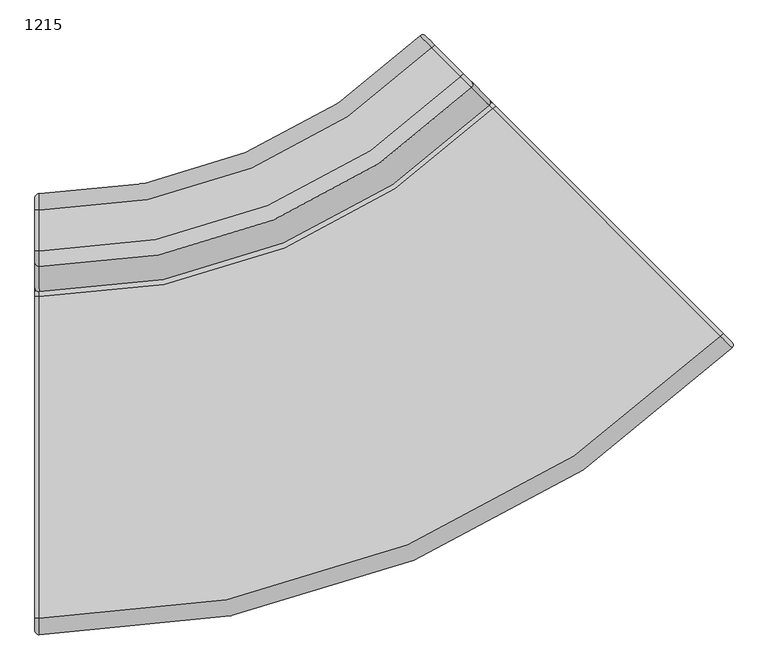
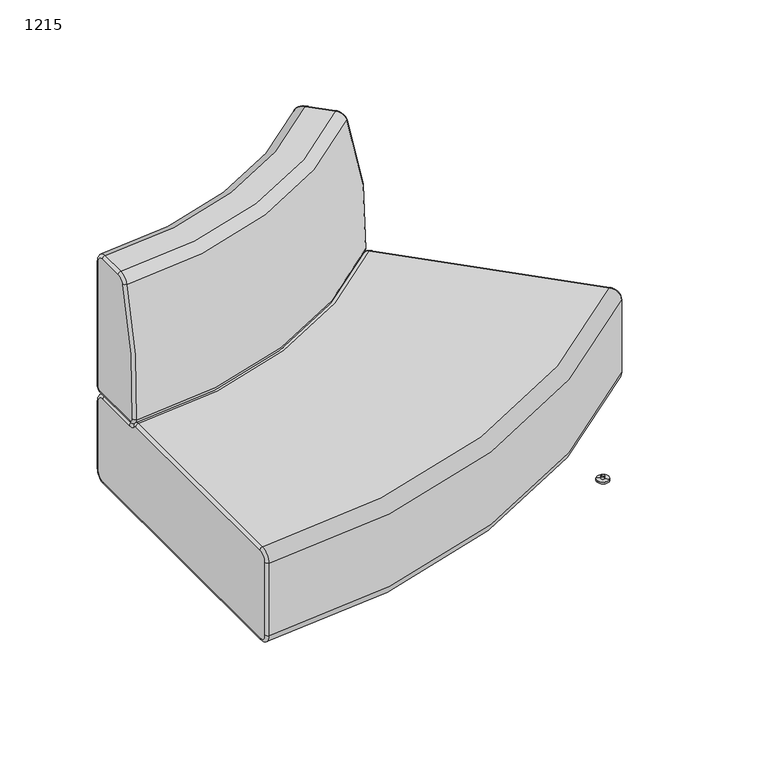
"""IFC4 building model written with IfcOpenShell, lengths in millimetres: furniture geometry, Laguna-Modular-Outside_Curve-ERG : 1215."""

from ifc_helpers import new_model, si_unit, point, frame, frame_2d, origin, place, context, project, spatial, polyline, circle_curve, ellipse_curve, trimmed, segment, composite_curve, outline, extrude, source, transform, mapped, element, save
from ifc_brep_helpers import plane_surface, cylinder_surface, revolved_surface, advanced_brep


def furniture_1215_0016b4f5(model_context):
    return source(origin(), model_context, "Body", "SolidModel", [
        extrude(outline(composite_curve([segment(trimmed(circle_curve(frame_2d((-4101.2959415, 1192.0526601)), 5.08), [point((-4104.8818015, 1195.6509941))], [point((-4097.6976074, 1195.6385201))], False, "CARTESIAN"), True, "CONTINUOUS"), segment(polyline([(-4097.6976074, 1195.6385201), (-4069.0107273, 1166.8518477)]), True, "CONTINUOUS"), segment(trimmed(circle_curve(frame_2d((-4072.6090614, 1163.2659876)), 5.08), [point((-4069.0107273, 1166.8518477))], [point((-4069.0232014, 1159.6676536))], False, "CARTESIAN"), True, "CONTINUOUS"), segment(polyline([(-4069.0232014, 1159.6676536), (-4112.20321, 1116.6373334)]), True, "CONTINUOUS"), segment(trimmed(circle_curve(frame_2d((-4115.78907, 1120.2356675)), 5.08), [point((-4112.20321, 1116.6373334))], [point((-4119.3874041, 1116.6498075))], False, "CARTESIAN"), True, "CONTINUOUS"), segment(polyline([(-4119.3874041, 1116.6498075), (-4148.0742842, 1145.4364799)]), True, "CONTINUOUS"), segment(trimmed(circle_curve(frame_2d((-4144.4759501, 1149.0223399)), 5.08), [point((-4148.0742842, 1145.4364799))], [point((-4148.0618101, 1152.620674))], False, "CARTESIAN"), True, "CONTINUOUS"), segment(polyline([(-4148.0618101, 1152.620674), (-4104.8818015, 1195.6509941)]), True, "CONTINUOUS")], self_intersect=False)), frame((0.0, 0.0, 200.66), z_axis=(0.0, 0.0, 1.0), x_axis=(1.0, 0.0, 0.0)), (0.0, 0.0, 1.0), 2.54),
        extrude(outline(composite_curve([segment(trimmed(circle_curve(frame_2d((-3708.0974018, 797.4863106)), 5.08), [point((-3711.6832618, 801.0846446))], [point((-3704.4990677, 801.0721706))], False, "CARTESIAN"), True, "CONTINUOUS"), segment(polyline([(-3704.4990677, 801.0721706), (-3675.8121876, 772.2854982)]), True, "CONTINUOUS"), segment(trimmed(circle_curve(frame_2d((-3679.4105217, 768.6996382)), 5.08), [point((-3675.8121876, 772.2854982))], [point((-3675.8246617, 765.1013041))], False, "CARTESIAN"), True, "CONTINUOUS"), segment(polyline([(-3675.8246617, 765.1013041), (-3719.0046703, 722.0709839)]), True, "CONTINUOUS"), segment(trimmed(circle_curve(frame_2d((-3722.5905303, 725.669318)), 5.08), [point((-3719.0046703, 722.0709839))], [point((-3726.1888644, 722.083458))], False, "CARTESIAN"), True, "CONTINUOUS"), segment(polyline([(-3726.1888644, 722.083458), (-3754.8757445, 750.8701304)]), True, "CONTINUOUS"), segment(trimmed(circle_curve(frame_2d((-3751.2774104, 754.4559904)), 5.08), [point((-3754.8757445, 750.8701304))], [point((-3754.8632704, 758.0543245))], False, "CARTESIAN"), True, "CONTINUOUS"), segment(polyline([(-3754.8632704, 758.0543245), (-3711.6832618, 801.0846446)]), True, "CONTINUOUS")], self_intersect=False)), frame((0.0, 0.0, 200.66), z_axis=(0.0, 0.0, 1.0), x_axis=(1.0, 0.0, 0.0)), (0.0, 0.0, 1.0), 2.54),
        advanced_brep(
        [(-4700.4237656, 845.1834654, 435.9339217), (-4003.3328855, 1133.9881051, 435.9339217), (-4030.8034326, 1161.4505616, 744.3916508), (-4700.4237656, 884.0269651, 744.3916508), (-4700.4237656, 863.0813354, 419.1), (-4015.9904546, 1146.6419463, 419.1), (-4700.4237656, 984.17383, 419.1), (-4101.6284004, 1232.2546704, 419.1), (-4700.4237656, 996.8738467, 431.8), (-4110.6099791, 1241.2336038, 431.8), (-4700.4237656, 996.8738467, 736.5999844), (-4110.6099791, 1241.2336038, 736.6), (-4700.4237656, 971.4738467, 762.0), (-4092.6468218, 1223.275737, 762.0), (-4700.4237656, 908.202381, 762.0), (-4047.9005425, 1178.5426361, 762.0), (-4706.7737656, 990.5238467, 431.8), (-4706.7737656, 984.1738467, 425.45), (-4706.7737656, 863.0813354, 425.45), (-4706.7737656, 851.5215589, 436.3225994), (-4706.7737656, 890.0708162, 742.4437381), (-4706.7737656, 908.2023695, 755.65), (-4706.7737656, 971.4738467, 755.65), (-4706.7737656, 990.5238467, 736.6), (-4101.6297231, 1241.2349264, 736.6), (-4088.1573551, 1227.7665263, 755.65), (-4043.4110757, 1183.0334255, 755.65), (-4030.5882433, 1170.2143696, 742.4437381), (-4003.3257878, 1142.9599433, 436.3225994), (-4011.5009879, 1151.1327356, 425.45), (-4097.1389337, 1236.7454597, 425.45), (-4101.6297231, 1241.2349264, 431.8)],
        [
            (0, 1, circle_curve(frame((-4700.4237656, 1830.8736805, 435.9339217), z_axis=(0.0, 0.0, 1.0), x_axis=(0.7072109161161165, -0.7070026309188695, 0.0)), 985.6902151)),
            (1, 2, circle_curve(frame((-4595.0588877, 1725.5398343, 487.2440105), z_axis=(-0.7070026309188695, -0.7072109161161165, 0.0), x_axis=(0.7072109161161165, -0.7070026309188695, 0.0)), 838.2755126)),
            (2, 3, circle_curve(frame((-4700.4237656, 1830.8736805, 744.3916508), z_axis=(0.0, 0.0, -1.0), x_axis=(0.7072109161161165, -0.7070026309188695, 0.0)), 946.8467154)),
            (3, 0, circle_curve(frame((-4700.4237656, 1681.8871823, 487.2440105), z_axis=(1.0, 0.0, 0.0), x_axis=(0.0, -1.0, 0.0)), 838.2755126)),
            (0, 4, circle_curve(frame((-4700.4237656, 863.0813354, 437.0314921), z_axis=(1.0, 0.0, 0.0), x_axis=(0.0, -1.0, 0.0)), 17.9314921)),
            (4, 5, circle_curve(frame((-4700.4237656, 1830.8736805, 419.1), z_axis=(0.0, 0.0, 1.0), x_axis=(0.7072109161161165, -0.7070026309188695, 0.0)), 967.7923451)),
            (5, 1, circle_curve(frame((-4015.9904546, 1146.6419463, 437.0314921), z_axis=(-0.7070026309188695, -0.7072109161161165, 0.0), x_axis=(0.7072109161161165, -0.7070026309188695, 0.0)), 17.9314921)),
            (4, 6),
            (6, 7, circle_curve(frame((-4700.4237656, 1830.8736805, 419.1), z_axis=(0.0, 0.0, 1.0), x_axis=(0.7072109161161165, -0.7070026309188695, 0.0)), 846.6998338)),
            (7, 5),
            (6, 8, circle_curve(frame((-4700.4237656, 984.1738467, 431.8), z_axis=(1.0, 0.0, 0.0), x_axis=(0.0, -1.0, 0.0)), 12.7)),
            (8, 9, circle_curve(frame((-4700.4237656, 1830.8736805, 431.8), z_axis=(0.0, 0.0, 1.0), x_axis=(0.7072109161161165, -0.7070026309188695, 0.0)), 833.9998338)),
            (9, 7, circle_curve(frame((-4101.6284004, 1232.2546704, 431.8), z_axis=(-0.7070026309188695, -0.7072109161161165, 0.0), x_axis=(0.7072109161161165, -0.7070026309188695, 0.0)), 12.7)),
            (8, 10),
            (10, 11, circle_curve(frame((-4700.4237656, 1830.8736805, 736.6), z_axis=(0.0, 0.0, 1.0), x_axis=(0.7072109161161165, -0.7070026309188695, 0.0)), 833.9998338)),
            (11, 9),
            (10, 12, circle_curve(frame((-4700.4237656, 971.4738467, 736.6), z_axis=(1.0, 0.0, 0.0), x_axis=(0.0, -1.0, 0.0)), 25.4)),
            (12, 13, circle_curve(frame((-4700.4237656, 1830.8736805, 762.0), z_axis=(0.0, 0.0, 1.0), x_axis=(0.7072109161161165, -0.7070026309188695, 0.0)), 859.3998338)),
            (13, 11, circle_curve(frame((-4092.6468218, 1223.275737, 736.6), z_axis=(-0.7070026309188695, -0.7072109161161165, 0.0), x_axis=(0.7072109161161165, -0.7070026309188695, 0.0)), 25.4)),
            (12, 14),
            (14, 15, circle_curve(frame((-4700.4237656, 1830.8736805, 762.0), z_axis=(0.0, 0.0, 1.0), x_axis=(0.7072109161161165, -0.7070026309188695, 0.0)), 922.671311)),
            (15, 13),
            (2, 15, circle_curve(frame((-4047.9005425, 1178.5426361, 736.6), z_axis=(-0.7070026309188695, -0.7072109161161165, 0.0), x_axis=(0.7072109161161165, -0.7070026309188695, 0.0)), 25.4)),
            (14, 3, circle_curve(frame((-4700.4237656, 908.2023695, 736.6), z_axis=(1.0, 0.0, 0.0), x_axis=(0.0, -1.0, 0.0)), 25.4)),
            (16, 8, circle_curve(frame((-4700.4237656, 990.5238467, 431.8), z_axis=(0.0, 0.0, -1.0), x_axis=(-1.0, 0.0, 0.0)), 6.35)),
            (6, 17, circle_curve(frame((-4700.4237656, 984.1738467, 425.45), z_axis=(0.0, 1.0, 0.0), x_axis=(-1.0, 0.0, 0.0)), 6.35)),
            (17, 16, circle_curve(frame((-4706.7737656, 984.1738467, 431.8), z_axis=(1.0, 0.0, 0.0), x_axis=(0.0, 1.0, 0.0)), 6.35)),
            (4, 18, circle_curve(frame((-4700.4237656, 863.0813354, 425.45), z_axis=(0.0, 1.0, 0.0), x_axis=(-1.0, 0.0, 0.0)), 6.35)),
            (18, 17),
            (0, 19, circle_curve(frame((-4700.4237656, 851.5215589, 436.3225994), z_axis=(0.0, 0.061209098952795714, -0.9981249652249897), x_axis=(-1.0, 0.0, 0.0)), 6.35)),
            (19, 18, circle_curve(frame((-4706.7737656, 863.0813354, 437.0314921), z_axis=(1.0, 0.0, 0.0), x_axis=(0.0, 0.0, -1.0)), 11.5814921)),
            (3, 20, circle_curve(frame((-4700.4237656, 890.0708162, 742.4437381), z_axis=(0.0, -0.30675790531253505, -0.95178757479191), x_axis=(-1.0, 0.0, 0.0)), 6.35)),
            (20, 19, circle_curve(frame((-4706.7737656, 1681.8871823, 487.2440105), z_axis=(1.0, 0.0, 0.0), x_axis=(0.0, -0.9981249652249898, -0.061209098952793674)), 831.9255126)),
            (14, 21, circle_curve(frame((-4700.4237656, 908.2023695, 755.65), z_axis=(0.0, -1.0, 0.0), x_axis=(-1.0, 0.0, 0.0)), 6.35)),
            (21, 20, circle_curve(frame((-4706.7737656, 908.2023695, 736.6), z_axis=(1.0, 0.0, 0.0), x_axis=(0.0, -0.9517875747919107, 0.3067579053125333)), 19.05)),
            (12, 22, circle_curve(frame((-4700.4237656, 971.4738467, 755.65), z_axis=(0.0, -1.0, 0.0), x_axis=(-1.0, 0.0, 0.0)), 6.35)),
            (22, 21),
            (10, 23, circle_curve(frame((-4700.4237656, 990.5238467, 736.6), z_axis=(0.0, 0.0, 1.0), x_axis=(-1.0, 0.0, 0.0)), 6.35)),
            (23, 22, circle_curve(frame((-4706.7737656, 971.4738467, 736.6), z_axis=(1.0, 0.0, 0.0), x_axis=(0.0, 0.0, 1.0)), 19.05)),
            (16, 23),
            (24, 11, circle_curve(frame((-4106.1191898, 1236.7441371, 736.6), z_axis=(0.0, 0.0, 1.0), x_axis=(0.7072109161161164, -0.7070026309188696, 0.0)), 6.35)),
            (13, 25, circle_curve(frame((-4092.6468218, 1223.275737, 755.65), z_axis=(-0.7072109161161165, 0.7070026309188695, 0.0), x_axis=(0.0, 0.0, -1.0)), 6.35)),
            (25, 24, circle_curve(frame((-4088.1573551, 1227.7665263, 736.6), z_axis=(-0.7070026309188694, -0.7072109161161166, 0.0), x_axis=(-0.7072109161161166, 0.7070026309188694, 0.0)), 19.05)),
            (15, 26, circle_curve(frame((-4047.9005425, 1178.5426361, 755.65), z_axis=(-0.7072109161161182, 0.707002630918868, 0.0), x_axis=(0.0, 0.0, -1.0)), 6.35)),
            (26, 25),
            (2, 27, circle_curve(frame((-4035.07771, 1165.7235803, 742.4437381), z_axis=(-0.2169425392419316, 0.21687864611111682, 0.9517875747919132), x_axis=(-0.6731145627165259, 0.6729163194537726, -0.30675790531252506)), 6.35)),
            (27, 26, circle_curve(frame((-4043.4110757, 1183.0334255, 736.6), z_axis=(-0.7070026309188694, -0.7072109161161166, 0.0), x_axis=(0.0, 0.0, 1.0)), 19.05)),
            (1, 28, circle_curve(frame((-4007.8152545, 1138.4691539, 436.3225994), z_axis=(0.043287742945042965, -0.04327499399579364, 0.9981249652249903), x_axis=(-0.7058848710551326, 0.7056769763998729, 0.0612090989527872)), 6.35)),
            (28, 27, circle_curve(frame((-4590.569421, 1730.0306236, 487.2440105), z_axis=(-0.7070026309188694, -0.7072109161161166, 0.0), x_axis=(0.6731145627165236, -0.6729163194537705, 0.30675790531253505)), 831.9255126)),
            (5, 29, circle_curve(frame((-4015.9904546, 1146.6419463, 425.45), z_axis=(0.7072109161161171, -0.707002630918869, 0.0), x_axis=(0.0, 0.0, 1.0)), 6.35)),
            (29, 28, circle_curve(frame((-4011.5009879, 1151.1327356, 437.0314921), z_axis=(-0.7070026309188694, -0.7072109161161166, 0.0), x_axis=(0.7058848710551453, -0.705676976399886, -0.06120909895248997)), 11.5814921)),
            (7, 30, circle_curve(frame((-4101.6284004, 1232.2546704, 425.45), z_axis=(0.7072109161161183, -0.7070026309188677, 0.0), x_axis=(0.0, 0.0, 1.0)), 6.35)),
            (30, 29),
            (9, 31, circle_curve(frame((-4106.1191898, 1236.7441371, 431.8), z_axis=(0.0, 0.0, -1.0), x_axis=(0.7072109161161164, -0.7070026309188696, 0.0)), 6.35)),
            (31, 30, circle_curve(frame((-4097.1389337, 1236.7454597, 431.8), z_axis=(-0.7070026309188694, -0.7072109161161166, 0.0), x_axis=(0.0, 0.0, -1.0)), 6.35)),
            (24, 31),
        ],
        [
            revolved_surface(trimmed(ellipse_curve(frame((-4595.0588877, 1725.5398343, 487.2440105), z_axis=(0.7070026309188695, 0.7072109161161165, 0.0), x_axis=(0.7072109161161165, -0.7070026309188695, 0.0)), 838.2755126, 838.2755126), [point((-4030.8034326, 1161.4505616, 744.3916508))], [point((-4003.3328855, 1133.9881051, 435.9339217))], True, "CARTESIAN"), (-4700.4237656, 1830.8736805, 0.0), (0.0, 0.0, -1.0)),
            revolved_surface(trimmed(ellipse_curve(frame((-4015.9904546, 1146.6419463, 437.0314921), z_axis=(0.7070026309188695, 0.7072109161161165, 0.0), x_axis=(0.7072109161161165, -0.7070026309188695, 0.0)), 17.9314921, 17.9314921), [point((-4003.3328855, 1133.9881051, 435.9339217))], [point((-4015.9904546, 1146.6419463, 419.1))], True, "CARTESIAN"), (-4700.4237656, 1830.8736805, 0.0), (0.0, 0.0, -1.0)),
            plane_surface(frame((-4700.4237656, 1830.8736805, 419.1), z_axis=(0.0, 0.0, -1.0), x_axis=(0.7072109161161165, -0.7070026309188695, 0.0))),
            revolved_surface(trimmed(ellipse_curve(frame((-4101.6284004, 1232.2546704, 431.8), z_axis=(0.7070026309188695, 0.7072109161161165, 0.0), x_axis=(0.7072109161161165, -0.7070026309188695, 0.0)), 12.7, 12.7), [point((-4101.6284004, 1232.2546704, 419.1))], [point((-4110.6099791, 1241.2336038, 431.8))], True, "CARTESIAN"), (-4700.4237656, 1830.8736805, 0.0), (0.0, 0.0, -1.0)),
            revolved_surface(polyline([(-4110.609979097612, 1241.2336038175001, 431.8), (-4110.609979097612, 1241.2336038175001, 736.6)]), (-4700.4237656, 1830.8736805, 0.0), (0.0, 0.0, -1.0)),
            revolved_surface(trimmed(ellipse_curve(frame((-4092.6468218, 1223.275737, 736.6), z_axis=(0.7070026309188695, 0.7072109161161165, 0.0), x_axis=(0.7072109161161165, -0.7070026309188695, 0.0)), 25.4, 25.4), [point((-4110.6099791, 1241.2336038, 736.6))], [point((-4092.6468218, 1223.275737, 762.0))], True, "CARTESIAN"), (-4700.4237656, 1830.8736805, 0.0), (0.0, 0.0, -1.0)),
            plane_surface(frame((-4700.4237656, 1830.8736805, 762.0), z_axis=(0.0, 0.0, 1.0), x_axis=(0.7072109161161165, -0.7070026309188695, 0.0))),
            revolved_surface(trimmed(ellipse_curve(frame((-4047.9005425, 1178.5426361, 736.6), z_axis=(0.7070026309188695, 0.7072109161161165, 0.0), x_axis=(0.7072109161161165, -0.7070026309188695, 0.0)), 25.4, 25.4), [point((-4047.9005425, 1178.5426361, 762.0))], [point((-4030.8034326, 1161.4505616, 744.3916508))], True, "CARTESIAN"), (-4700.4237656, 1830.8736805, 0.0), (0.0, 0.0, -1.0)),
            revolved_surface(trimmed(ellipse_curve(frame((-4700.4237656, 990.5238467, 431.8), z_axis=(0.0, 0.0, 1.0), x_axis=(-1.0, 0.0, 0.0)), 6.35, 6.35), [point((-4700.4237656, 996.8738467, 431.8))], [point((-4706.7737656, 990.5238467, 431.8))], True, "CARTESIAN"), (-4700.4237656, 984.1738467, 431.8), (-1.0, 0.0, 0.0)),
            cylinder_surface(frame((-4700.4237656, 984.1738467, 425.45), z_axis=(0.0, 1.0, 0.0), x_axis=(-1.0, 0.0, 0.0)), 6.35),
            revolved_surface(trimmed(ellipse_curve(frame((-4700.4237656, 863.0813354, 425.45), z_axis=(0.0, 1.0, 0.0), x_axis=(-1.0, 0.0, 0.0)), 6.35, 6.35), [point((-4700.4237656, 863.0813354, 419.1))], [point((-4706.7737656, 863.0813354, 425.45))], True, "CARTESIAN"), (-4700.4237656, 863.0813354, 437.0314921), (-1.0, 0.0, 0.0)),
            revolved_surface(trimmed(ellipse_curve(frame((-4700.4237656, 851.5215589, 436.3225994), z_axis=(0.0, 0.0612090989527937, -0.9981249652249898), x_axis=(-1.0, 0.0, 0.0)), 6.35, 6.35), [point((-4700.4237656, 845.1834654, 435.9339217))], [point((-4706.7737656, 851.5215589, 436.3225994))], True, "CARTESIAN"), (-4700.4237656, 1681.8871823, 487.2440105), (-1.0, 0.0, 0.0)),
            revolved_surface(trimmed(ellipse_curve(frame((-4700.4237656, 890.0708162, 742.4437381), z_axis=(0.0, -0.3067579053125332, -0.9517875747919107), x_axis=(-1.0, 0.0, 0.0)), 6.35, 6.35), [point((-4700.4237656, 884.0269651, 744.3916508))], [point((-4706.7737656, 890.0708162, 742.4437381))], True, "CARTESIAN"), (-4700.4237656, 908.2023695, 736.6), (-1.0, 0.0, 0.0)),
            cylinder_surface(frame((-4700.4237656, 908.2023695, 755.65), z_axis=(0.0, -1.0, 0.0), x_axis=(-1.0, 0.0, 0.0)), 6.35),
            revolved_surface(trimmed(ellipse_curve(frame((-4700.4237656, 971.4738467, 755.65), z_axis=(0.0, -1.0, 0.0), x_axis=(-1.0, 0.0, 0.0)), 6.35, 6.35), [point((-4700.4237656, 971.4738467, 762.0))], [point((-4706.7737656, 971.4738467, 755.65))], True, "CARTESIAN"), (-4700.4237656, 971.4738467, 736.6), (-1.0, 0.0, 0.0)),
            cylinder_surface(frame((-4700.4237656, 990.5238467, 736.6), z_axis=(0.0, 0.0, 1.0), x_axis=(-1.0, 0.0, 0.0)), 6.35),
            plane_surface(frame((-4706.7737656, 990.5238467, 431.8), z_axis=(-1.0, 0.0, 0.0), x_axis=(0.0, 0.0, -1.0))),
            revolved_surface(trimmed(ellipse_curve(frame((-4106.1191898, 1236.7441371, 736.6), z_axis=(0.0, 0.0, -1.0), x_axis=(0.7072109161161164, -0.7070026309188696, 0.0)), 6.35, 6.35), [point((-4110.6099791, 1241.2336038, 736.6))], [point((-4101.6297231, 1241.2349264, 736.6))], True, "CARTESIAN"), (-4092.6468218, 1223.275737, 736.6), (0.7070026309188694, 0.7072109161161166, 0.0)),
            cylinder_surface(frame((-4092.6468218, 1223.275737, 755.65), z_axis=(-0.7072109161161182, 0.707002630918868, 0.0), x_axis=(0.0, 0.0, -1.0)), 6.35),
            revolved_surface(trimmed(ellipse_curve(frame((-4047.9005425, 1178.5426361, 755.65), z_axis=(-0.7072109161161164, 0.7070026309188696, 0.0), x_axis=(0.0, 0.0, -1.0)), 6.35, 6.35), [point((-4047.9005425, 1178.5426361, 762.0))], [point((-4043.4110757, 1183.0334255, 755.65))], True, "CARTESIAN"), (-4047.9005425, 1178.5426361, 736.6), (0.7070026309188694, 0.7072109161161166, 0.0)),
            revolved_surface(trimmed(ellipse_curve(frame((-4035.07771, 1165.7235803, 742.4437381), z_axis=(-0.21694253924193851, 0.2168786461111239, 0.95178757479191), x_axis=(-0.6731145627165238, 0.6729163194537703, -0.30675790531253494)), 6.35, 6.35), [point((-4030.8034326, 1161.4505616, 744.3916508))], [point((-4030.5882433, 1170.2143696, 742.4437381))], True, "CARTESIAN"), (-4595.0588877, 1725.5398343, 487.2440105), (0.7070026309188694, 0.7072109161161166, 0.0)),
            revolved_surface(trimmed(ellipse_curve(frame((-4007.8152545, 1138.4691539, 436.3225994), z_axis=(0.0432877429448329, -0.04327499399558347, 0.9981249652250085), x_axis=(-0.7058848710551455, 0.7056769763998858, 0.061209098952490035)), 6.35, 6.35), [point((-4003.3328855, 1133.9881051, 435.9339217))], [point((-4003.3257878, 1142.9599433, 436.3225994))], True, "CARTESIAN"), (-4015.9904546, 1146.6419463, 437.0314921), (0.7070026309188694, 0.7072109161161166, 0.0)),
            cylinder_surface(frame((-4015.9904546, 1146.6419463, 425.45), z_axis=(0.7072109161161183, -0.7070026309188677, 0.0), x_axis=(0.0, 0.0, 1.0)), 6.35),
            revolved_surface(trimmed(ellipse_curve(frame((-4101.6284004, 1232.2546704, 425.45), z_axis=(0.707210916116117, -0.7070026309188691, 0.0), x_axis=(0.0, 0.0, 1.0)), 6.35, 6.35), [point((-4101.6284004, 1232.2546704, 419.1))], [point((-4097.1389337, 1236.7454597, 425.45))], True, "CARTESIAN"), (-4101.6284004, 1232.2546704, 431.8), (0.7070026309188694, 0.7072109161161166, 0.0)),
            cylinder_surface(frame((-4106.1191898, 1236.7441371, 431.8), z_axis=(0.0, 0.0, -1.0), x_axis=(0.7072109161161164, -0.7070026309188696, 0.0)), 6.35),
            plane_surface(frame((-5178.9162249, 2318.2041497, 487.2440105), z_axis=(0.7070026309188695, 0.7072109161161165, 0.0), x_axis=(0.0, 0.0, 1.0))),
        ],
        [
            (0, [[1, 2, 3, 4]]),
            (1, [[-1, 5, 6, 7]]),
            (2, [[-6, 8, 9, 10]]),
            (3, [[-9, 11, 12, 13]]),
            (4, [[-12, 14, 15, 16]]),
            (5, [[-15, 17, 18, 19]]),
            (6, [[-18, 20, 21, 22]]),
            (7, [[-3, 23, -21, 24]]),
            (8, [[25, -11, 26, 27]]),
            (9, [[-26, -8, 28, 29]]),
            (10, [[-28, -5, 30, 31]]),
            (11, [[-30, -4, 32, 33]]),
            (12, [[-32, -24, 34, 35]]),
            (13, [[-34, -20, 36, 37]]),
            (14, [[-36, -17, 38, 39]]),
            (15, [[-25, 40, -38, -14]]),
            (16, [[-27, -29, -31, -33, -35, -37, -39, -40]]),
            (17, [[41, -19, 42, 43]]),
            (18, [[-42, -22, 44, 45]]),
            (19, [[-44, -23, 46, 47]]),
            (20, [[-46, -2, 48, 49]]),
            (21, [[-48, -7, 50, 51]]),
            (22, [[-50, -10, 52, 53]]),
            (23, [[-52, -13, 54, 55]]),
            (24, [[-41, 56, -54, -16]]),
            (25, [[-43, -45, -47, -49, -51, -53, -55, -56]]),
        ],
    ),
        advanced_brep(
        [(-4092.613484, 1223.2371087, 203.2), (-4700.4237656, 971.4738467, 203.2), (-4700.4237656, 996.8738467, 228.6), (-4110.5739962, 1241.1976209, 228.6), (-3645.3421163, 775.9657411, 203.2), (-4700.4237656, 338.9365976, 203.2), (-3627.3815935, 758.0052182, 228.6), (-4700.4237656, 313.5365976, 228.6), (-3627.3815935, 758.0052182, 406.3999815), (-4700.4237656, 313.5365976, 406.4), (-3645.3421057, 775.9657305, 431.8), (-4700.4237656, 338.9365976, 431.8), (-3997.8150098, 1128.4386345, 431.8), (-4700.4237656, 837.408566, 431.8), (-4005.8899894, 1136.5136141, 426.1507973), (-4700.4237656, 848.8283045, 426.1507973), (-4015.9684042, 1146.5920289, 419.1), (-4700.4237656, 863.0813354, 419.1), (-4092.6134727, 1223.2370975, 419.1), (-4700.4237656, 971.4738467, 419.1), (-4110.5739962, 1241.1976209, 393.7), (-4700.4237656, 996.8738467, 393.7), (-4706.7737656, 971.4738467, 412.75), (-4706.7737656, 990.5238467, 393.7), (-4706.7737656, 990.5238467, 228.6), (-4706.7737656, 971.4738467, 209.55), (-4706.7737656, 338.9365976, 209.55), (-4706.7737656, 319.8865976, 228.6), (-4706.7737656, 319.8865976, 406.4), (-4706.7737656, 338.9365976, 425.45), (-4706.7737656, 837.408566, 425.45), (-4706.7737656, 843.7809417, 422.2976649), (-4706.7737656, 863.0813354, 412.75), (-4088.1233559, 1227.7272368, 209.55), (-4101.5937401, 1241.1976209, 228.6), (-4101.5937401, 1241.1976209, 393.7), (-4088.1233559, 1227.7272368, 412.75), (-4011.4782761, 1151.082157, 412.75), (-3997.8308368, 1137.4347177, 422.2976649), (-3993.3248868, 1132.9287676, 425.45), (-3640.8519777, 780.4558585, 425.45), (-3627.3815935, 766.9854744, 406.4), (-3627.3815935, 766.9854744, 228.6), (-3640.8519777, 780.4558585, 209.55)],
        [
            (0, 1, circle_curve(frame((-4700.4237656, 1831.0473903, 203.2), z_axis=(0.0, 0.0, -1.0), x_axis=(0.0, -1.0, 0.0)), 859.5735436)),
            (1, 2, circle_curve(frame((-4700.4237656, 971.4738467, 228.6), z_axis=(1.0, 0.0, 0.0), x_axis=(0.0, 1.0, 0.0)), 25.4)),
            (2, 3, circle_curve(frame((-4700.4237656, 1831.0473903, 228.6), z_axis=(0.0, 0.0, 1.0), x_axis=(0.0, -1.0, 0.0)), 834.1735436)),
            (3, 0, circle_curve(frame((-4092.613484, 1223.2371087, 228.6), z_axis=(-0.7071067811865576, -0.7071067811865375, 0.0), x_axis=(-0.7071067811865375, 0.7071067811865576, 0.0)), 25.4)),
            (0, 4),
            (4, 5, circle_curve(frame((-4700.4237656, 1831.0473903, 203.2), z_axis=(0.0, 0.0, -1.0), x_axis=(0.0, -1.0, 0.0)), 1492.1107927)),
            (5, 1),
            (4, 6, circle_curve(frame((-3645.3421057, 775.9657305, 228.6), z_axis=(-0.7071067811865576, -0.7071067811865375, 0.0), x_axis=(-0.7071067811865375, 0.7071067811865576, 0.0)), 25.4)),
            (6, 7, circle_curve(frame((-4700.4237656, 1831.0473903, 228.6), z_axis=(0.0, 0.0, -1.0), x_axis=(0.0, -1.0, 0.0)), 1517.5107927)),
            (7, 5, circle_curve(frame((-4700.4237656, 338.9365976, 228.6), z_axis=(1.0, 0.0, 0.0), x_axis=(0.0, 1.0, 0.0)), 25.4)),
            (6, 8),
            (8, 9, circle_curve(frame((-4700.4237656, 1831.0473903, 406.4), z_axis=(0.0, 0.0, -1.0), x_axis=(0.0, -1.0, 0.0)), 1517.5107927)),
            (9, 7),
            (8, 10, circle_curve(frame((-3645.3421057, 775.9657305, 406.4), z_axis=(-0.7071067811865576, -0.7071067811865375, 0.0), x_axis=(-0.7071067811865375, 0.7071067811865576, 0.0)), 25.4)),
            (10, 11, circle_curve(frame((-4700.4237656, 1831.0473903, 431.8), z_axis=(0.0, 0.0, -1.0), x_axis=(0.0, -1.0, 0.0)), 1492.1107927)),
            (11, 9, circle_curve(frame((-4700.4237656, 338.9365976, 406.4), z_axis=(1.0, 0.0, 0.0), x_axis=(0.0, 1.0, 0.0)), 25.4)),
            (10, 12),
            (12, 13, circle_curve(frame((-4700.4237656, 1831.0473903, 431.8), z_axis=(0.0, 0.0, -1.0), x_axis=(0.0, -1.0, 0.0)), 993.6388243)),
            (13, 11),
            (12, 14, circle_curve(frame((-3997.8150148, 1128.4386396, 417.4330241), z_axis=(-0.7071067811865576, -0.7071067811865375, 0.0), x_axis=(-0.7071067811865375, 0.7071067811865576, 0.0)), 14.3669759)),
            (14, 15, circle_curve(frame((-4700.4237656, 1831.0473903, 426.1507973), z_axis=(0.0, 0.0, -1.0), x_axis=(0.0, -1.0, 0.0)), 982.2190858)),
            (15, 13, circle_curve(frame((-4700.4237656, 837.408566, 417.4330241), z_axis=(1.0, 0.0, 0.0), x_axis=(0.0, 1.0, 0.0)), 14.3669759)),
            (14, 16, circle_curve(frame((-4015.9684042, 1146.5920289, 437.0314921), z_axis=(0.7071067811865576, 0.7071067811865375, 0.0), x_axis=(-0.7071067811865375, 0.7071067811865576, 0.0)), 17.9314921)),
            (16, 17, circle_curve(frame((-4700.4237656, 1831.0473903, 419.1), z_axis=(0.0, 0.0, -1.0), x_axis=(0.0, -1.0, 0.0)), 967.9660549)),
            (17, 15, circle_curve(frame((-4700.4237656, 863.0813354, 437.0314921), z_axis=(-1.0, 0.0, 0.0), x_axis=(0.0, 1.0, 0.0)), 17.9314921)),
            (16, 18),
            (18, 19, circle_curve(frame((-4700.4237656, 1831.0473903, 419.1), z_axis=(0.0, 0.0, -1.0), x_axis=(0.0, -1.0, 0.0)), 859.5735436)),
            (19, 17),
            (18, 20, circle_curve(frame((-4092.613484, 1223.2371087, 393.7), z_axis=(-0.7071067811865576, -0.7071067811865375, 0.0), x_axis=(-0.7071067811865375, 0.7071067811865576, 0.0)), 25.4)),
            (20, 21, circle_curve(frame((-4700.4237656, 1831.0473903, 393.7), z_axis=(0.0, 0.0, -1.0), x_axis=(0.0, -1.0, 0.0)), 834.1735436)),
            (21, 19, circle_curve(frame((-4700.4237656, 971.4738467, 393.7), z_axis=(1.0, 0.0, 0.0), x_axis=(0.0, 1.0, 0.0)), 25.4)),
            (2, 21),
            (20, 3),
            (22, 19, circle_curve(frame((-4700.4237656, 971.4738467, 412.75), z_axis=(0.0, 1.0, 0.0), x_axis=(0.0, 0.0, -1.0)), 6.35)),
            (21, 23, circle_curve(frame((-4700.4237656, 990.5238467, 393.7), z_axis=(0.0, 0.0, 1.0), x_axis=(0.0, -1.0, 0.0)), 6.35)),
            (23, 22, circle_curve(frame((-4706.7737656, 971.4738467, 393.7), z_axis=(1.0, 0.0, 0.0), x_axis=(0.0, 0.0, 1.0)), 19.05)),
            (2, 24, circle_curve(frame((-4700.4237656, 990.5238467, 228.6), z_axis=(0.0, 0.0, 1.0), x_axis=(0.0, -1.0, 0.0)), 6.35)),
            (24, 23),
            (1, 25, circle_curve(frame((-4700.4237656, 971.4738467, 209.55), z_axis=(0.0, 1.0, 0.0), x_axis=(0.0, 0.0, 1.0)), 6.35)),
            (25, 24, circle_curve(frame((-4706.7737656, 971.4738467, 228.6), z_axis=(1.0, 0.0, 0.0), x_axis=(0.0, 1.0, 0.0)), 19.05)),
            (5, 26, circle_curve(frame((-4700.4237656, 338.9365976, 209.55), z_axis=(0.0, 1.0, 0.0), x_axis=(0.0, 0.0, 1.0)), 6.35)),
            (26, 25),
            (7, 27, circle_curve(frame((-4700.4237656, 319.8865976, 228.6), z_axis=(0.0, 0.0, -1.0), x_axis=(0.0, 1.0, 0.0)), 6.35)),
            (27, 26, circle_curve(frame((-4706.7737656, 338.9365976, 228.6), z_axis=(1.0, 0.0, 0.0), x_axis=(0.0, 0.0, -1.0)), 19.05)),
            (9, 28, circle_curve(frame((-4700.4237656, 319.8865976, 406.4), z_axis=(0.0, 0.0, -1.0), x_axis=(0.0, 1.0, 0.0)), 6.35)),
            (28, 27),
            (11, 29, circle_curve(frame((-4700.4237656, 338.9365976, 425.45), z_axis=(0.0, -1.0, 0.0), x_axis=(0.0, 0.0, -1.0)), 6.35)),
            (29, 28, circle_curve(frame((-4706.7737656, 338.9365976, 406.4), z_axis=(1.0, 0.0, 0.0), x_axis=(0.0, -1.0, 0.0)), 19.05)),
            (13, 30, circle_curve(frame((-4700.4237656, 837.408566, 425.45), z_axis=(0.0, -1.0, 0.0), x_axis=(0.0, 0.0, -1.0)), 6.35)),
            (30, 29),
            (15, 31, circle_curve(frame((-4700.4237656, 843.7809417, 422.2976649), z_axis=(0.0, -0.6067924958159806, 0.7948602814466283), x_axis=(0.0, -0.7948602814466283, -0.6067924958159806)), 6.35)),
            (31, 30, circle_curve(frame((-4706.7737656, 837.408566, 417.4330241), z_axis=(1.0, 0.0, 0.0), x_axis=(0.0, 0.0, 1.0)), 8.0169759)),
            (17, 32, circle_curve(frame((-4700.4237656, 863.0813354, 412.75), z_axis=(0.0, -1.0, 0.0), x_axis=(0.0, 0.0, -1.0)), 6.35)),
            (32, 31, circle_curve(frame((-4706.7737656, 863.0813354, 437.0314921), z_axis=(-1.0, 0.0, 0.0), x_axis=(0.0, -0.7948602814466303, -0.6067924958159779)), 24.2814921)),
            (22, 32),
            (33, 0, circle_curve(frame((-4092.613484, 1223.2371087, 209.55), z_axis=(-0.7071067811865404, 0.7071067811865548, 0.0), x_axis=(0.0, 0.0, 1.0)), 6.35)),
            (3, 34, circle_curve(frame((-4106.0838681, 1236.7074929, 228.6), z_axis=(0.0, 0.0, -1.0), x_axis=(0.7071067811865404, -0.7071067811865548, 0.0)), 6.35)),
            (34, 33, circle_curve(frame((-4088.1233559, 1227.7272368, 228.6), z_axis=(-0.7071067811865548, -0.7071067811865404, 0.0), x_axis=(0.0, 0.0, -1.0)), 19.05)),
            (20, 35, circle_curve(frame((-4106.0838681, 1236.7074929, 393.7), z_axis=(0.0, 0.0, -1.0), x_axis=(0.7071067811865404, -0.7071067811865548, 0.0)), 6.35)),
            (35, 34),
            (18, 36, circle_curve(frame((-4092.613484, 1223.2371087, 412.75), z_axis=(-0.7071067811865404, 0.7071067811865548, 0.0), x_axis=(0.0, 0.0, -1.0000000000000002)), 6.35)),
            (36, 35, circle_curve(frame((-4088.1233559, 1227.7272368, 393.7), z_axis=(-0.7071067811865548, -0.7071067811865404, 0.0), x_axis=(-0.7071067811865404, 0.7071067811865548, 0.0)), 19.05)),
            (16, 37, circle_curve(frame((-4015.9684042, 1146.5920289, 412.75), z_axis=(-0.707106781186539, 0.7071067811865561, 0.0), x_axis=(0.0, 0.0, -1.0)), 6.35)),
            (37, 36),
            (14, 38, circle_curve(frame((-4002.3209649, 1132.9445896, 422.2976649), z_axis=(-0.4290670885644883, 0.42906708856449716, -0.7948602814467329), x_axis=(0.5620510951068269, -0.5620510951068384, -0.6067924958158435)), 6.35)),
            (38, 37, circle_curve(frame((-4011.4782761, 1151.082157, 437.0314921), z_axis=(0.7071067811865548, 0.7071067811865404, 0.0), x_axis=(0.0, 0.0, -1.0)), 24.2814921)),
            (12, 39, circle_curve(frame((-3997.8150148, 1128.4386396, 425.45), z_axis=(-0.7071067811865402, 0.7071067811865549, 0.0), x_axis=(0.0, 0.0, -1.0000000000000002)), 6.35)),
            (39, 38, circle_curve(frame((-3993.3248868, 1132.9287676, 417.4330241), z_axis=(-0.7071067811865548, -0.7071067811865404, 0.0), x_axis=(-0.5620510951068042, 0.5620510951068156, 0.6067924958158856)), 8.0169759)),
            (10, 40, circle_curve(frame((-3645.3421057, 775.9657305, 425.45), z_axis=(-0.7071067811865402, 0.7071067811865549, 0.0), x_axis=(0.0, 0.0, -1.0)), 6.35)),
            (40, 39),
            (8, 41, circle_curve(frame((-3631.8717215, 762.4953463, 406.4), z_axis=(0.0, 0.0, 1.0), x_axis=(-0.7071067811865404, 0.7071067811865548, 0.0)), 6.35)),
            (41, 40, circle_curve(frame((-3640.8519777, 780.4558585, 406.4), z_axis=(-0.7071067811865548, -0.7071067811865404, 0.0), x_axis=(0.0, 0.0, 1.0)), 19.05)),
            (6, 42, circle_curve(frame((-3631.8717215, 762.4953463, 228.6), z_axis=(0.0, 0.0, 1.0), x_axis=(-0.7071067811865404, 0.7071067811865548, 0.0)), 6.35)),
            (42, 41),
            (4, 43, circle_curve(frame((-3645.3421057, 775.9657305, 209.55), z_axis=(0.7071067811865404, -0.7071067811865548, 0.0), x_axis=(0.0, 0.0, 1.0000000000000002)), 6.35)),
            (43, 42, circle_curve(frame((-3640.8519777, 780.4558585, 228.6), z_axis=(-0.7071067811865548, -0.7071067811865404, 0.0), x_axis=(0.7071067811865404, -0.7071067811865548, 0.0)), 19.05)),
            (33, 43),
        ],
        [
            revolved_surface(trimmed(ellipse_curve(frame((-4700.4237656, 971.4738467, 228.6), z_axis=(-1.0, 0.0, 0.0), x_axis=(0.0, 1.0, 0.0)), 25.4, 25.4), [point((-4700.4237656, 996.8738467, 228.6))], [point((-4700.4237656, 971.4738467, 203.2))], True, "CARTESIAN"), (-4700.4237656, 1831.0473903, 0.0), (0.0, 0.0, 1.0)),
            plane_surface(frame((-4700.4237656, 1831.0473903, 203.2), z_axis=(0.0, 0.0, -1.0), x_axis=(0.0, -1.0, 0.0))),
            revolved_surface(trimmed(ellipse_curve(frame((-4700.4237656, 338.9365976, 228.6), z_axis=(-1.0, 0.0, 0.0), x_axis=(0.0, 1.0, 0.0)), 25.4, 25.4), [point((-4700.4237656, 338.9365976, 203.2))], [point((-4700.4237656, 313.5365976, 228.6))], True, "CARTESIAN"), (-4700.4237656, 1831.0473903, 0.0), (0.0, 0.0, 1.0)),
            cylinder_surface(frame((-4700.4237656, 1831.0473903, 0.0), z_axis=(0.0, 0.0, 1.0), x_axis=(0.0, -1.0, 0.0)), 1517.5107927),
            revolved_surface(trimmed(ellipse_curve(frame((-4700.4237656, 338.9365976, 406.4), z_axis=(-1.0, 0.0, 0.0), x_axis=(0.0, 1.0, 0.0)), 25.4, 25.4), [point((-4700.4237656, 313.5365976, 406.4))], [point((-4700.4237656, 338.9365976, 431.8))], True, "CARTESIAN"), (-4700.4237656, 1831.0473903, 0.0), (0.0, 0.0, 1.0)),
            plane_surface(frame((-4700.4237656, 1831.0473903, 431.8), z_axis=(0.0, 0.0, 1.0), x_axis=(0.0, -1.0, 0.0))),
            revolved_surface(trimmed(ellipse_curve(frame((-4700.4237656, 837.408566, 417.4330241), z_axis=(-1.0, 0.0, 0.0), x_axis=(0.0, 1.0, 0.0)), 14.3669759, 14.3669759), [point((-4700.4237656, 837.408566, 431.8))], [point((-4700.4237656, 848.8283045, 426.1507973))], True, "CARTESIAN"), (-4700.4237656, 1831.0473903, 0.0), (0.0, 0.0, 1.0)),
            revolved_surface(trimmed(ellipse_curve(frame((-4700.4237656, 863.0813354, 437.0314921), z_axis=(1.0, 0.0, 0.0), x_axis=(0.0, 1.0, 0.0)), 17.9314921, 17.9314921), [point((-4700.4237656, 848.8283045, 426.1507973))], [point((-4700.4237656, 863.0813354, 419.1))], True, "CARTESIAN"), (-4700.4237656, 1831.0473903, 0.0), (0.0, 0.0, 1.0)),
            plane_surface(frame((-4700.4237656, 1831.0473903, 419.1), z_axis=(0.0, 0.0, 1.0), x_axis=(0.0, -1.0, 0.0))),
            revolved_surface(trimmed(ellipse_curve(frame((-4700.4237656, 971.4738467, 393.7), z_axis=(-1.0, 0.0, 0.0), x_axis=(0.0, 1.0, 0.0)), 25.4, 25.4), [point((-4700.4237656, 971.4738467, 419.1))], [point((-4700.4237656, 996.8738467, 393.7))], True, "CARTESIAN"), (-4700.4237656, 1831.0473903, 0.0), (0.0, 0.0, 1.0)),
            revolved_surface(polyline([(-4700.4237656, 996.8738467, 393.7), (-4700.4237656, 996.8738467, 228.6)]), (-4700.4237656, 1831.0473903, 0.0), (0.0, 0.0, 1.0)),
            revolved_surface(trimmed(ellipse_curve(frame((-4700.4237656, 971.4738467, 412.75), z_axis=(0.0, -1.0, 0.0), x_axis=(0.0, 0.0, -1.0)), 6.35, 6.35), [point((-4700.4237656, 971.4738467, 419.1))], [point((-4706.7737656, 971.4738467, 412.75))], True, "CARTESIAN"), (-4700.4237656, 971.4738467, 393.7), (-1.0, 0.0, 0.0)),
            cylinder_surface(frame((-4700.4237656, 990.5238467, 393.7), z_axis=(0.0, 0.0, 1.0), x_axis=(0.0, -1.0, 0.0)), 6.35),
            revolved_surface(trimmed(ellipse_curve(frame((-4700.4237656, 990.5238467, 228.6), z_axis=(0.0, 0.0, 1.0), x_axis=(0.0, -1.0, 0.0)), 6.35, 6.35), [point((-4700.4237656, 996.8738467, 228.6))], [point((-4706.7737656, 990.5238467, 228.6))], True, "CARTESIAN"), (-4700.4237656, 971.4738467, 228.6), (-1.0, 0.0, 0.0)),
            cylinder_surface(frame((-4700.4237656, 971.4738467, 209.55), z_axis=(0.0, 1.0, 0.0), x_axis=(0.0, 0.0, 1.0)), 6.35),
            revolved_surface(trimmed(ellipse_curve(frame((-4700.4237656, 338.9365976, 209.55), z_axis=(0.0, 1.0, 0.0), x_axis=(0.0, 0.0, 1.0)), 6.35, 6.35), [point((-4700.4237656, 338.9365976, 203.2))], [point((-4706.7737656, 338.9365976, 209.55))], True, "CARTESIAN"), (-4700.4237656, 338.9365976, 228.6), (-1.0, 0.0, 0.0)),
            cylinder_surface(frame((-4700.4237656, 319.8865976, 228.6), z_axis=(0.0, 0.0, -1.0), x_axis=(0.0, 1.0, 0.0)), 6.35),
            revolved_surface(trimmed(ellipse_curve(frame((-4700.4237656, 319.8865976, 406.4), z_axis=(0.0, 0.0, -1.0), x_axis=(0.0, 1.0, 0.0)), 6.35, 6.35), [point((-4700.4237656, 313.5365976, 406.4))], [point((-4706.7737656, 319.8865976, 406.4))], True, "CARTESIAN"), (-4700.4237656, 338.9365976, 406.4), (-1.0, 0.0, 0.0)),
            cylinder_surface(frame((-4700.4237656, 338.9365976, 425.45), z_axis=(0.0, -1.0, 0.0), x_axis=(0.0, 0.0, -1.0)), 6.35),
            revolved_surface(trimmed(ellipse_curve(frame((-4700.4237656, 837.408566, 425.45), z_axis=(0.0, -1.0, 0.0), x_axis=(0.0, 0.0, -1.0)), 6.35, 6.35), [point((-4700.4237656, 837.408566, 431.8))], [point((-4706.7737656, 837.408566, 425.45))], True, "CARTESIAN"), (-4700.4237656, 837.408566, 417.4330241), (-1.0, 0.0, 0.0)),
            revolved_surface(trimmed(ellipse_curve(frame((-4700.4237656, 843.7809417, 422.2976649), z_axis=(0.0, -0.6067924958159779, 0.7948602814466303), x_axis=(0.0, -0.7948602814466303, -0.6067924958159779)), 6.35, 6.35), [point((-4700.4237656, 848.8283045, 426.1507973))], [point((-4706.7737656, 843.7809417, 422.2976649))], True, "CARTESIAN"), (-4700.4237656, 863.0813354, 437.0314921), (1.0, 0.0, 0.0)),
            cylinder_surface(frame((-4700.4237656, 863.0813354, 412.75), z_axis=(0.0, -1.0, 0.0), x_axis=(0.0, 0.0, -1.0)), 6.35),
            plane_surface(frame((-4706.7737656, 990.5238467, 228.6), z_axis=(-1.0, 0.0, 0.0), x_axis=(0.0, 0.0, -1.0))),
            revolved_surface(trimmed(ellipse_curve(frame((-4092.613484, 1223.2371087, 209.55), z_axis=(0.7071067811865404, -0.7071067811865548, 0.0), x_axis=(0.0, 0.0, 1.0)), 6.35, 6.35), [point((-4092.613484, 1223.2371087, 203.2))], [point((-4088.1233559, 1227.7272368, 209.55))], True, "CARTESIAN"), (-4092.613484, 1223.2371087, 228.6), (0.7071067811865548, 0.7071067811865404, 0.0)),
            cylinder_surface(frame((-4106.0838681, 1236.7074929, 228.6), z_axis=(0.0, 0.0, -1.0000000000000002), x_axis=(0.7071067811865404, -0.7071067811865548, 0.0)), 6.35),
            revolved_surface(trimmed(ellipse_curve(frame((-4106.0838681, 1236.7074929, 393.7), z_axis=(0.0, 0.0, -1.0000000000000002), x_axis=(0.7071067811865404, -0.7071067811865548, 0.0)), 6.35, 6.35), [point((-4110.5739962, 1241.1976209, 393.7))], [point((-4101.5937401, 1241.1976209, 393.7))], True, "CARTESIAN"), (-4092.613484, 1223.2371087, 393.7), (0.7071067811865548, 0.7071067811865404, 0.0)),
            cylinder_surface(frame((-4092.613484, 1223.2371087, 412.75), z_axis=(-0.7071067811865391, 0.7071067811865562, 0.0), x_axis=(0.0, 0.0, -1.0)), 6.35),
            revolved_surface(trimmed(ellipse_curve(frame((-4015.9684042, 1146.5920289, 412.75), z_axis=(-0.7071067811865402, 0.7071067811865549, 0.0), x_axis=(0.0, 0.0, -1.0)), 6.35, 6.35), [point((-4015.9684042, 1146.5920289, 419.1))], [point((-4011.4782761, 1151.082157, 412.75))], True, "CARTESIAN"), (-4015.9684042, 1146.5920289, 437.0314921), (-0.7071067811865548, -0.7071067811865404, 0.0)),
            revolved_surface(trimmed(ellipse_curve(frame((-4002.3209649, 1132.9445896, 422.2976649), z_axis=(-0.42906708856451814, 0.42906708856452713, -0.7948602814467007), x_axis=(0.5620510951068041, -0.5620510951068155, -0.6067924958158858)), 6.35, 6.35), [point((-4005.8899894, 1136.5136141, 426.1507973))], [point((-3997.8308368, 1137.4347177, 422.2976649))], True, "CARTESIAN"), (-3997.8150148, 1128.4386396, 417.4330241), (0.7071067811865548, 0.7071067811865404, 0.0)),
            cylinder_surface(frame((-3997.8150148, 1128.4386396, 425.45), z_axis=(-0.7071067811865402, 0.7071067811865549, 0.0), x_axis=(0.0, 0.0, -1.0)), 6.35),
            revolved_surface(trimmed(ellipse_curve(frame((-3645.3421057, 775.9657305, 425.45), z_axis=(-0.7071067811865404, 0.7071067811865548, 0.0), x_axis=(0.0, 0.0, -1.0)), 6.35, 6.35), [point((-3645.3421057, 775.9657305, 431.8))], [point((-3640.8519777, 780.4558585, 425.45))], True, "CARTESIAN"), (-3645.3421057, 775.9657305, 406.4), (0.7071067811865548, 0.7071067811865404, 0.0)),
            cylinder_surface(frame((-3631.8717215, 762.4953463, 406.4), z_axis=(0.0, 0.0, 1.0000000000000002), x_axis=(-0.7071067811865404, 0.7071067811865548, 0.0)), 6.35),
            revolved_surface(trimmed(ellipse_curve(frame((-3631.8717215, 762.4953463, 228.6), z_axis=(0.0, 0.0, 1.0000000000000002), x_axis=(-0.7071067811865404, 0.7071067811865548, 0.0)), 6.35, 6.35), [point((-3627.3815935, 758.0052182, 228.6))], [point((-3627.3815935, 766.9854744, 228.6))], True, "CARTESIAN"), (-3645.3421057, 775.9657305, 228.6), (0.7071067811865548, 0.7071067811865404, 0.0)),
            cylinder_surface(frame((-3645.3421057, 775.9657305, 209.55), z_axis=(0.7071067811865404, -0.7071067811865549, 0.0), x_axis=(0.0, 0.0, 1.0)), 6.35),
            plane_surface(frame((-3627.3815935, 766.9854744, 228.6), z_axis=(0.7071067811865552, 0.7071067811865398, 0.0), x_axis=(0.0, 0.0, -1.0))),
        ],
        [
            (0, [[1, 2, 3, 4]]),
            (1, [[-1, 5, 6, 7]]),
            (2, [[-6, 8, 9, 10]]),
            (3, [[-9, 11, 12, 13]]),
            (4, [[-12, 14, 15, 16]]),
            (5, [[-15, 17, 18, 19]]),
            (6, [[-18, 20, 21, 22]]),
            (7, [[-21, 23, 24, 25]]),
            (8, [[-24, 26, 27, 28]]),
            (9, [[-27, 29, 30, 31]]),
            (10, [[-3, 32, -30, 33]]),
            (11, [[34, -31, 35, 36]]),
            (12, [[-35, -32, 37, 38]]),
            (13, [[-37, -2, 39, 40]]),
            (14, [[-39, -7, 41, 42]]),
            (15, [[-41, -10, 43, 44]]),
            (16, [[-43, -13, 45, 46]]),
            (17, [[-45, -16, 47, 48]]),
            (18, [[-47, -19, 49, 50]]),
            (19, [[-49, -22, 51, 52]]),
            (20, [[-51, -25, 53, 54]]),
            (21, [[-34, 55, -53, -28]]),
            (22, [[-36, -38, -40, -42, -44, -46, -48, -50, -52, -54, -55]]),
            (23, [[56, -4, 57, 58]]),
            (24, [[-57, -33, 59, 60]]),
            (25, [[-59, -29, 61, 62]]),
            (26, [[-61, -26, 63, 64]]),
            (27, [[-63, -23, 65, 66]]),
            (28, [[-65, -20, 67, 68]]),
            (29, [[-67, -17, 69, 70]]),
            (30, [[-69, -14, 71, 72]]),
            (31, [[-71, -11, 73, 74]]),
            (32, [[-73, -8, 75, 76]]),
            (33, [[-56, 77, -75, -5]]),
            (34, [[-58, -60, -62, -64, -66, -68, -70, -72, -74, -76, -77]]),
        ],
    ),
        extrude(outline(composite_curve([segment(trimmed(circle_curve(frame_2d((-4612.7937656, 955.5149089)), 5.08), [point((-4612.7937656, 960.5949089))], [point((-4607.7137656, 955.5149089))], False, "CARTESIAN"), True, "CONTINUOUS"), segment(polyline([(-4607.7137656, 955.5149089), (-4607.7137656, 914.8749089)]), True, "CONTINUOUS"), segment(trimmed(circle_curve(frame_2d((-4612.7937656, 914.8749089)), 5.08), [point((-4607.7137656, 914.8749089))], [point((-4612.7937656, 909.7949089))], False, "CARTESIAN"), True, "CONTINUOUS"), segment(polyline([(-4612.7937656, 909.7949089), (-4673.7537656, 909.7949089)]), True, "CONTINUOUS"), segment(trimmed(circle_curve(frame_2d((-4673.7537656, 914.8749089)), 5.08), [point((-4673.7537656, 909.7949089))], [point((-4678.8337656, 914.8749089))], False, "CARTESIAN"), True, "CONTINUOUS"), segment(polyline([(-4678.8337656, 914.8749089), (-4678.8337656, 955.5149089)]), True, "CONTINUOUS"), segment(trimmed(circle_curve(frame_2d((-4673.7537656, 955.5149089)), 5.08), [point((-4678.8337656, 955.5149089))], [point((-4673.7537656, 960.5949089))], False, "CARTESIAN"), True, "CONTINUOUS"), segment(polyline([(-4673.7537656, 960.5949089), (-4612.7937656, 960.5949089)]), True, "CONTINUOUS")], self_intersect=False)), frame((0.0, 0.0, 200.66), z_axis=(0.0, 0.0, 1.0), x_axis=(1.0, 0.0, 0.0)), (0.0, 0.0, 1.0), 2.54),
        extrude(outline(composite_curve([segment(trimmed(circle_curve(frame_2d((-4612.7937656, 398.4801741)), 5.08), [point((-4612.7937656, 403.5601741))], [point((-4607.7137656, 398.4801741))], False, "CARTESIAN"), True, "CONTINUOUS"), segment(polyline([(-4607.7137656, 398.4801741), (-4607.7137656, 357.8401741)]), True, "CONTINUOUS"), segment(trimmed(circle_curve(frame_2d((-4612.7937656, 357.8401741)), 5.08), [point((-4607.7137656, 357.8401741))], [point((-4612.7937656, 352.7601741))], False, "CARTESIAN"), True, "CONTINUOUS"), segment(polyline([(-4612.7937656, 352.7601741), (-4673.7537656, 352.7601741)]), True, "CONTINUOUS"), segment(trimmed(circle_curve(frame_2d((-4673.7537656, 357.8401741)), 5.08), [point((-4673.7537656, 352.7601741))], [point((-4678.8337656, 357.8401741))], False, "CARTESIAN"), True, "CONTINUOUS"), segment(polyline([(-4678.8337656, 357.8401741), (-4678.8337656, 398.4801741)]), True, "CONTINUOUS"), segment(trimmed(circle_curve(frame_2d((-4673.7537656, 398.4801741)), 5.08), [point((-4678.8337656, 398.4801741))], [point((-4673.7537656, 403.5601741))], False, "CARTESIAN"), True, "CONTINUOUS"), segment(polyline([(-4673.7537656, 403.5601741), (-4612.7937656, 403.5601741)]), True, "CONTINUOUS")], self_intersect=False)), frame((0.0, 0.0, 200.66), z_axis=(0.0, 0.0, 1.0), x_axis=(1.0, 0.0, 0.0)), (0.0, 0.0, 1.0), 2.54),
        advanced_brep(
        [(-4136.3855015, 1186.1868212, 10.16), (-4133.3852134, 1183.186533, 10.16), (-4139.3857896, 1189.1871093, 10.16), (-4146.3404007, 1196.1417204, 0.0), (-4126.4306023, 1176.231922, 0.0), (-4136.3855015, 1186.1868212, 0.0), (-4146.3404007, 1196.1417204, 3.9615026), (-4126.4306023, 1176.231922, 3.9615026), (-4139.3857896, 1189.1871093, 3.9615026), (-4133.3852134, 1183.186533, 3.9615026)],
        [
            (0, 1),
            (1, 2, circle_curve(frame((-4136.3855015, 1186.1868212, 10.16), z_axis=(0.0, 0.0, 1.0), x_axis=(0.7071067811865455, -0.7071067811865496, 0.0)), 4.2430482)),
            (2, 0),
            (2, 1, circle_curve(frame((-4136.3855015, 1186.1868212, 10.16), z_axis=(0.0, 0.0, 1.0), x_axis=(0.7071067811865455, -0.7071067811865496, 0.0)), 4.2430482)),
            (3, 4, circle_curve(frame((-4136.3855015, 1186.1868212, 0.0), z_axis=(0.0, 0.0, -1.0), x_axis=(0.7071067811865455, -0.7071067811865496, 0.0)), 14.0783534)),
            (4, 5),
            (5, 3),
            (4, 3, circle_curve(frame((-4136.3855015, 1186.1868212, 0.0), z_axis=(0.0, 0.0, -1.0), x_axis=(0.7071067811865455, -0.7071067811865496, 0.0)), 14.0783534)),
            (6, 7, circle_curve(frame((-4136.3855015, 1186.1868212, 3.9615026), z_axis=(0.0, 0.0, -1.0), x_axis=(0.7071067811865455, -0.7071067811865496, 0.0)), 14.0783534)),
            (7, 4),
            (3, 6),
            (7, 6, circle_curve(frame((-4136.3855015, 1186.1868212, 3.9615026), z_axis=(0.0, 0.0, -1.0), x_axis=(0.7071067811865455, -0.7071067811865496, 0.0)), 14.0783534)),
            (8, 9, circle_curve(frame((-4136.3855015, 1186.1868212, 3.9615026), z_axis=(0.0, 0.0, -1.0), x_axis=(0.7071067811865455, -0.7071067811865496, 0.0)), 4.2430482)),
            (9, 7),
            (6, 8),
            (9, 8, circle_curve(frame((-4136.3855015, 1186.1868212, 3.9615026), z_axis=(0.0, 0.0, -1.0), x_axis=(0.7071067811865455, -0.7071067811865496, 0.0)), 4.2430482)),
            (1, 9),
            (8, 2),
        ],
        [
            plane_surface(frame((-4136.3855015, 1186.1868212, 10.16), z_axis=(0.0, 0.0, 1.0), x_axis=(0.7071067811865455, -0.7071067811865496, 0.0))),
            plane_surface(frame((-4136.3855015, 1186.1868212, 0.0), z_axis=(0.0, 0.0, -1.0), x_axis=(0.7071067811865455, -0.7071067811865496, 0.0))),
            cylinder_surface(frame((-4136.3855015, 1186.1868212, 10.16), z_axis=(0.0, 0.0, 1.0), x_axis=(0.7071067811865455, -0.7071067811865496, 0.0)), 14.0783534),
            plane_surface(frame((-4136.3855015, 1186.1868212, 3.9615026), z_axis=(0.0, 0.0, 1.0), x_axis=(0.7071067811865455, -0.7071067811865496, 0.0))),
            cylinder_surface(frame((-4136.3855015, 1186.1868212, 10.16), z_axis=(0.0, 0.0, 1.0), x_axis=(0.7071067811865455, -0.7071067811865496, 0.0)), 4.2430482),
        ],
        [
            (0, [[1, 2, 3]]),
            (0, [[-3, 4, -1]]),
            (1, [[5, 6, 7]]),
            (1, [[8, -7, -6]]),
            (2, [[9, 10, -5, 11]]),
            (2, [[12, -11, -8, -10]]),
            (3, [[13, 14, -9, 15]]),
            (3, [[16, -15, -12, -14]]),
            (4, [[-2, 17, -13, 18]]),
            (4, [[-4, -18, -16, -17]]),
        ],
    ),
        advanced_brep(
        [(-3684.4745673, 734.275887, 10.16), (-3681.4742792, 731.2755988, 10.16), (-3687.4748554, 737.2761751, 10.16), (-3694.4294665, 744.2307862, 0.0), (-3674.5196681, 724.3209878, 0.0), (-3684.4745673, 734.275887, 0.0), (-3694.4294665, 744.2307862, 3.9615026), (-3674.5196681, 724.3209878, 3.9615026), (-3687.4748554, 737.2761751, 3.9615026), (-3681.4742792, 731.2755988, 3.9615026)],
        [
            (0, 1),
            (1, 2, circle_curve(frame((-3684.4745673, 734.275887, 10.16), z_axis=(0.0, 0.0, 1.0), x_axis=(0.7071067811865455, -0.7071067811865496, 0.0)), 4.2430482)),
            (2, 0),
            (2, 1, circle_curve(frame((-3684.4745673, 734.275887, 10.16), z_axis=(0.0, 0.0, 1.0), x_axis=(0.7071067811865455, -0.7071067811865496, 0.0)), 4.2430482)),
            (3, 4, circle_curve(frame((-3684.4745673, 734.275887, 0.0), z_axis=(0.0, 0.0, -1.0), x_axis=(0.7071067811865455, -0.7071067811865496, 0.0)), 14.0783534)),
            (4, 5),
            (5, 3),
            (4, 3, circle_curve(frame((-3684.4745673, 734.275887, 0.0), z_axis=(0.0, 0.0, -1.0), x_axis=(0.7071067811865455, -0.7071067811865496, 0.0)), 14.0783534)),
            (6, 7, circle_curve(frame((-3684.4745673, 734.275887, 3.9615026), z_axis=(0.0, 0.0, -1.0), x_axis=(0.7071067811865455, -0.7071067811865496, 0.0)), 14.0783534)),
            (7, 4),
            (3, 6),
            (7, 6, circle_curve(frame((-3684.4745673, 734.275887, 3.9615026), z_axis=(0.0, 0.0, -1.0), x_axis=(0.7071067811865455, -0.7071067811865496, 0.0)), 14.0783534)),
            (8, 9, circle_curve(frame((-3684.4745673, 734.275887, 3.9615026), z_axis=(0.0, 0.0, -1.0), x_axis=(0.7071067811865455, -0.7071067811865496, 0.0)), 4.2430482)),
            (9, 7),
            (6, 8),
            (9, 8, circle_curve(frame((-3684.4745673, 734.275887, 3.9615026), z_axis=(0.0, 0.0, -1.0), x_axis=(0.7071067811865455, -0.7071067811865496, 0.0)), 4.2430482)),
            (1, 9),
            (8, 2),
        ],
        [
            plane_surface(frame((-3684.4745673, 734.275887, 10.16), z_axis=(0.0, 0.0, 1.0), x_axis=(0.7071067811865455, -0.7071067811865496, 0.0))),
            plane_surface(frame((-3684.4745673, 734.275887, 0.0), z_axis=(0.0, 0.0, -1.0), x_axis=(0.7071067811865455, -0.7071067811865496, 0.0))),
            cylinder_surface(frame((-3684.4745673, 734.275887, 10.16), z_axis=(0.0, 0.0, 1.0), x_axis=(0.7071067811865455, -0.7071067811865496, 0.0)), 14.0783534),
            plane_surface(frame((-3684.4745673, 734.275887, 3.9615026), z_axis=(0.0, 0.0, 1.0), x_axis=(0.7071067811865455, -0.7071067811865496, 0.0))),
            cylinder_surface(frame((-3684.4745673, 734.275887, 10.16), z_axis=(0.0, 0.0, 1.0), x_axis=(0.7071067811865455, -0.7071067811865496, 0.0)), 4.2430482),
        ],
        [
            (0, [[1, 2, 3]]),
            (0, [[-3, 4, -1]]),
            (1, [[5, 6, 7]]),
            (1, [[8, -7, -6]]),
            (2, [[9, 10, -5, 11]]),
            (2, [[12, -11, -8, -10]]),
            (3, [[13, 14, -9, 15]]),
            (3, [[16, -15, -12, -14]]),
            (4, [[-2, 17, -13, 18]]),
            (4, [[-4, -18, -16, -17]]),
        ],
    ),
    ])


if __name__ == "__main__":
    model = new_model("IFC4")
    model_context = context("Model", 3, world=origin())
    ifc_project = project(units=[si_unit("LENGTHUNIT", "METRE", prefix="MILLI")], contexts=[model_context])
    site = spatial("IfcSite", under=ifc_project)
    building = spatial("IfcBuilding", under=site)
    placement = place(None, origin())
    furniture_1215_shape = furniture_1215_0016b4f5(model_context)
    element("IfcFurniture", 1, ObjectType="Laguna-Modular-Outside_Curve-ERG : 1215", at=placement, inside=building, context=model_context, shape_type="MappedRepresentation", body=[
        mapped(furniture_1215_shape, transform((0.0, 0.0, 0.0), x_axis=(1.0, 0.0, 0.0), y_axis=(0.0, 1.0, 0.0), z_axis=(0.0, 0.0, 1.0))),
    ])
    save(model, "model.ifc")
